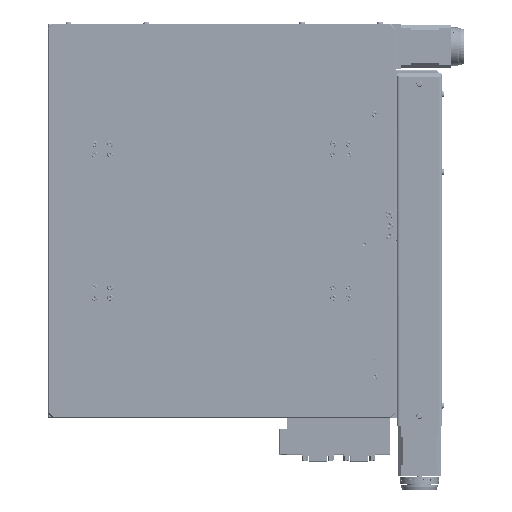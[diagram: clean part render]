
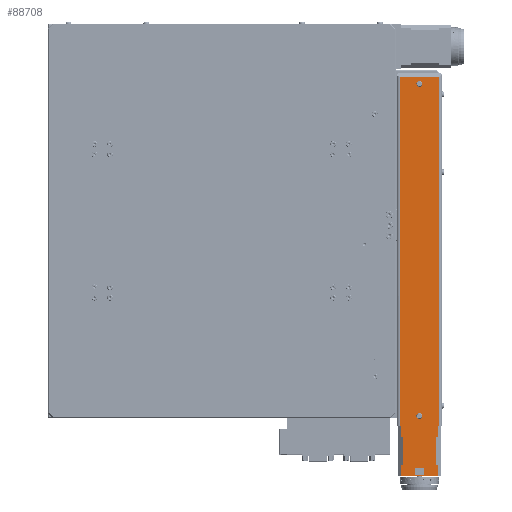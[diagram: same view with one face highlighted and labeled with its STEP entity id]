
A CAD part, top view. The second image highlights one B-rep face of the part: STEP entity #88708.
In plain terms, the highlighted planar face has unit normal (0, 0, 1).
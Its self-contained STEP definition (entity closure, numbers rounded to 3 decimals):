
#4360=LINE($,#197745,#10740);
#4408=LINE($,#197848,#10788);
#4416=LINE($,#197892,#10796);
#4422=LINE($,#197905,#10802);
#4424=LINE($,#197908,#10804);
#4429=LINE($,#197918,#10809);
#4431=LINE($,#197922,#10811);
#4432=LINE($,#197924,#10812);
#4436=LINE($,#197931,#10816);
#4445=LINE($,#197951,#10825);
#4455=LINE($,#197971,#10835);
#4456=LINE($,#197976,#10836);
#4457=LINE($,#197978,#10837);
#4458=LINE($,#197980,#10838);
#4459=LINE($,#197982,#10839);
#4460=LINE($,#197984,#10840);
#4461=LINE($,#197986,#10841);
#4462=LINE($,#197988,#10842);
#4463=LINE($,#197990,#10843);
#4464=LINE($,#197991,#10844);
#10740=VECTOR($,#106325,9.);
#10788=VECTOR($,#106389,27.);
#10796=VECTOR($,#106437,11.);
#10802=VECTOR($,#106451,11.);
#10804=VECTOR($,#106455,2.);
#10809=VECTOR($,#106464,7.);
#10811=VECTOR($,#106468,9.);
#10812=VECTOR($,#106471,7.);
#10816=VECTOR($,#106477,36.);
#10825=VECTOR($,#106498,2.);
#10835=VECTOR($,#106514,27.);
#10836=VECTOR($,#106519,2.);
#10837=VECTOR($,#106520,10.);
#10838=VECTOR($,#106521,1.);
#10839=VECTOR($,#106522,337.);
#10840=VECTOR($,#106523,38.);
#10841=VECTOR($,#106524,337.);
#10842=VECTOR($,#106525,1.);
#10843=VECTOR($,#106526,10.);
#10844=VECTOR($,#106527,2.);
#23151=FACE_BOUND($,#31986,.T.);
#23152=FACE_BOUND($,#31987,.T.);
#23153=FACE_BOUND($,#31988,.T.);
#23154=FACE_BOUND($,#31989,.T.);
#31986=EDGE_LOOP($,(#67226));
#31987=EDGE_LOOP($,(#67227));
#31988=EDGE_LOOP($,(#67228,#67229,#67230,#67231));
#31989=EDGE_LOOP($,(#67232,#67233,#67234,#67235,#67236,#67237,#67238,#67239,
#67240,#67241,#67242,#67243,#67244,#67245,#67246,#67247));
#38258=CIRCLE($,#94685,2.85);
#38278=CIRCLE($,#94769,2.85);
#42886=VERTEX_POINT($,#197584);
#42930=VERTEX_POINT($,#197742);
#42931=VERTEX_POINT($,#197744);
#42977=VERTEX_POINT($,#197845);
#42978=VERTEX_POINT($,#197847);
#42991=VERTEX_POINT($,#197885);
#42994=VERTEX_POINT($,#197890);
#42996=VERTEX_POINT($,#197902);
#42997=VERTEX_POINT($,#197904);
#43000=VERTEX_POINT($,#197916);
#43001=VERTEX_POINT($,#197920);
#43008=VERTEX_POINT($,#197948);
#43015=VERTEX_POINT($,#197969);
#43016=VERTEX_POINT($,#197973);
#43017=VERTEX_POINT($,#197975);
#43018=VERTEX_POINT($,#197977);
#43019=VERTEX_POINT($,#197979);
#43020=VERTEX_POINT($,#197981);
#43021=VERTEX_POINT($,#197983);
#43022=VERTEX_POINT($,#197985);
#43023=VERTEX_POINT($,#197987);
#43024=VERTEX_POINT($,#197989);
#52126=EDGE_CURVE($,#42886,#42886,#38258,.T.);
#52188=EDGE_CURVE($,#42931,#42930,#4360,.T.);
#52238=EDGE_CURVE($,#42977,#42978,#4408,.T.);
#52256=EDGE_CURVE($,#42994,#42991,#4416,.T.);
#52262=EDGE_CURVE($,#42996,#42997,#4422,.T.);
#52264=EDGE_CURVE($,#42996,#42978,#4424,.T.);
#52269=EDGE_CURVE($,#42930,#43000,#4429,.T.);
#52271=EDGE_CURVE($,#43000,#43001,#4431,.T.);
#52272=EDGE_CURVE($,#43001,#42931,#4432,.T.);
#52276=EDGE_CURVE($,#42994,#42997,#4436,.T.);
#52286=EDGE_CURVE($,#43008,#42991,#4445,.T.);
#52296=EDGE_CURVE($,#43008,#43015,#4455,.T.);
#52297=EDGE_CURVE($,#43016,#43016,#38278,.T.);
#52298=EDGE_CURVE($,#42977,#43017,#4456,.T.);
#52299=EDGE_CURVE($,#43018,#43017,#4457,.T.);
#52300=EDGE_CURVE($,#43018,#43019,#4458,.T.);
#52301=EDGE_CURVE($,#43019,#43020,#4459,.T.);
#52302=EDGE_CURVE($,#43021,#43020,#4460,.T.);
#52303=EDGE_CURVE($,#43022,#43021,#4461,.T.);
#52304=EDGE_CURVE($,#43022,#43023,#4462,.T.);
#52305=EDGE_CURVE($,#43024,#43023,#4463,.T.);
#52306=EDGE_CURVE($,#43024,#43015,#4464,.T.);
#67226=ORIENTED_EDGE($,*,*,#52297,.T.);
#67227=ORIENTED_EDGE($,*,*,#52126,.T.);
#67228=ORIENTED_EDGE($,*,*,#52269,.T.);
#67229=ORIENTED_EDGE($,*,*,#52271,.T.);
#67230=ORIENTED_EDGE($,*,*,#52272,.T.);
#67231=ORIENTED_EDGE($,*,*,#52188,.T.);
#67232=ORIENTED_EDGE($,*,*,#52298,.T.);
#67233=ORIENTED_EDGE($,*,*,#52299,.F.);
#67234=ORIENTED_EDGE($,*,*,#52300,.T.);
#67235=ORIENTED_EDGE($,*,*,#52301,.T.);
#67236=ORIENTED_EDGE($,*,*,#52302,.F.);
#67237=ORIENTED_EDGE($,*,*,#52303,.F.);
#67238=ORIENTED_EDGE($,*,*,#52304,.T.);
#67239=ORIENTED_EDGE($,*,*,#52305,.F.);
#67240=ORIENTED_EDGE($,*,*,#52306,.T.);
#67241=ORIENTED_EDGE($,*,*,#52296,.F.);
#67242=ORIENTED_EDGE($,*,*,#52286,.T.);
#67243=ORIENTED_EDGE($,*,*,#52256,.F.);
#67244=ORIENTED_EDGE($,*,*,#52276,.T.);
#67245=ORIENTED_EDGE($,*,*,#52262,.F.);
#67246=ORIENTED_EDGE($,*,*,#52264,.T.);
#67247=ORIENTED_EDGE($,*,*,#52238,.F.);
#84969=PLANE($,#94768);
#88708=ADVANCED_FACE($,(#23151,#23152,#23153,#23154),#84969,.T.);
#94685=AXIS2_PLACEMENT_3D($,#197585,#106210,#106211);
#94768=AXIS2_PLACEMENT_3D($,#197972,#106515,#106516);
#94769=AXIS2_PLACEMENT_3D($,#197974,#106517,#106518);
#106210=DIRECTION('center_axis',(0.,0.,
-1.));
#106211=DIRECTION('ref_axis',(0.5,-0.866,0.));
#106325=DIRECTION($,(1.,0.,0.));
#106389=DIRECTION($,(0.,-1.,0.));
#106437=DIRECTION($,(0.,1.,0.));
#106451=DIRECTION($,(0.,-1.,0.));
#106455=DIRECTION($,(-1.,0.,0.));
#106464=DIRECTION($,(0.,-1.,0.));
#106468=DIRECTION($,(-1.,0.,0.));
#106471=DIRECTION($,(0.,1.,0.));
#106477=DIRECTION($,(1.,0.,0.));
#106498=DIRECTION($,(-1.,0.,0.));
#106514=DIRECTION($,(0.,1.,0.));
#106515=DIRECTION('center_axis',(0.,0.,
1.));
#106516=DIRECTION('ref_axis',(0.,-1.,0.));
#106517=DIRECTION('center_axis',(0.,0.,
-1.));
#106518=DIRECTION('ref_axis',(0.,1.,0.));
#106519=DIRECTION($,(1.,0.,0.));
#106520=DIRECTION($,(0.,-1.,0.));
#106521=DIRECTION($,(1.,0.,0.));
#106522=DIRECTION($,(0.,1.,0.));
#106523=DIRECTION($,(1.,0.,0.));
#106524=DIRECTION($,(0.,1.,0.));
#106525=DIRECTION($,(1.,0.,0.));
#106526=DIRECTION($,(0.,1.,0.));
#106527=DIRECTION($,(1.,0.,0.));
#197584=CARTESIAN_POINT('',(360.468,-736.943,42.));
#197585=CARTESIAN_POINT('Origin',(358.,-738.368,42.));
#197742=CARTESIAN_POINT('',(362.5,-788.368,42.));
#197744=CARTESIAN_POINT('',(353.5,-788.368,42.));
#197745=CARTESIAN_POINT($,(379.,-788.368,42.));
#197845=CARTESIAN_POINT('',(374.,-758.368,42.));
#197847=CARTESIAN_POINT('',(374.,-785.368,42.));
#197848=CARTESIAN_POINT($,(374.,-755.368,42.));
#197885=CARTESIAN_POINT('',(340.,-785.368,42.));
#197890=CARTESIAN_POINT('',(340.,-796.368,42.));
#197892=CARTESIAN_POINT($,(340.,-796.368,42.));
#197902=CARTESIAN_POINT('',(376.,-785.368,42.));
#197904=CARTESIAN_POINT('',(376.,-796.368,42.));
#197905=CARTESIAN_POINT($,(376.,-796.368,42.));
#197908=CARTESIAN_POINT($,(337.,-785.368,42.));
#197916=CARTESIAN_POINT('',(362.5,-795.368,42.));
#197918=CARTESIAN_POINT($,(362.5,-795.868,42.));
#197920=CARTESIAN_POINT('',(353.5,-795.368,42.));
#197922=CARTESIAN_POINT($,(366.25,-795.368,42.));
#197924=CARTESIAN_POINT($,(353.5,-792.368,42.));
#197931=CARTESIAN_POINT($,(337.,-796.368,42.));
#197948=CARTESIAN_POINT('',(342.,-785.368,42.));
#197951=CARTESIAN_POINT($,(337.,-785.368,42.));
#197969=CARTESIAN_POINT('',(342.,-758.368,42.));
#197971=CARTESIAN_POINT($,(342.,-755.368,42.));
#197972=CARTESIAN_POINT('Origin',(337.,-755.368,42.));
#197973=CARTESIAN_POINT('',(360.468,-416.943,42.));
#197974=CARTESIAN_POINT('Origin',(358.,-418.368,42.));
#197975=CARTESIAN_POINT('',(376.,-758.368,42.));
#197976=CARTESIAN_POINT($,(379.,-758.368,42.));
#197977=CARTESIAN_POINT('',(376.,-748.368,42.));
#197978=CARTESIAN_POINT($,(376.,-748.368,42.));
#197979=CARTESIAN_POINT('',(377.,-748.368,42.));
#197980=CARTESIAN_POINT($,(336.,-748.368,42.));
#197981=CARTESIAN_POINT('',(377.,-411.368,42.));
#197982=CARTESIAN_POINT($,(377.,-578.368,42.));
#197983=CARTESIAN_POINT('',(339.,-411.368,42.));
#197984=CARTESIAN_POINT($,(369.,-411.368,42.));
#197985=CARTESIAN_POINT('',(339.,-748.368,42.));
#197986=CARTESIAN_POINT($,(339.,-748.368,42.));
#197987=CARTESIAN_POINT('',(340.,-748.368,42.));
#197988=CARTESIAN_POINT($,(336.,-748.368,42.));
#197989=CARTESIAN_POINT('',(340.,-758.368,42.));
#197990=CARTESIAN_POINT($,(340.,-748.368,42.));
#197991=CARTESIAN_POINT($,(379.,-758.368,42.));
